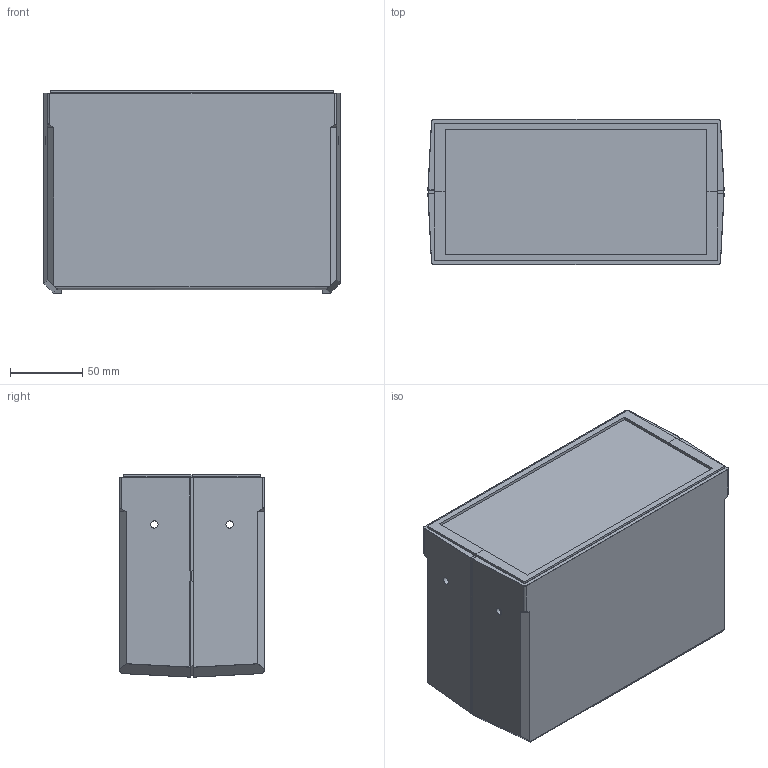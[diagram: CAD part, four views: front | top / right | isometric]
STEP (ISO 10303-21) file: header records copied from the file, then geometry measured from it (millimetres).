
FILE_DESCRIPTION (( 'STEP AP214' ), '1' );
FILE_NAME ('WTM137-TW.STEP', '2020-12-16T20:34:49', ( 'Rudy' ), ( '' ), 'SwSTEP 2.0', 'SolidWorks 2016', '' );
FILE_SCHEMA (( 'AUTOMOTIVE_DESIGN' ));
Length unit declared in the file: inch
Products named in the file (3): WTM137-TW; WTM 137 Endplate; WTM-high
Assembly tree (4 placements, depth 2):
  WTM137-TW
    WTM-high  x2
    WTM 137 Endplate  x2
Bounding box: 204.89 x 100.13 x 139.91 mm (x, y, z)
Volume: 355381.5 mm3; surface area: 270624.5 mm2
Topology: 4 solids, 4 shells, 978 faces, 2670 edges, 1720 vertices
Faces by surface type: plane 668, cylinder 268, bspline 20, torus 16, sphere 6
Entity records: 15515 total; most frequent: CARTESIAN_POINT 3165, ORIENTED_EDGE 2666, DIRECTION 2397, EDGE_CURVE 1333, LINE 1049, VECTOR 1049, VERTEX_POINT 860, AXIS2_PLACEMENT_3D 674
